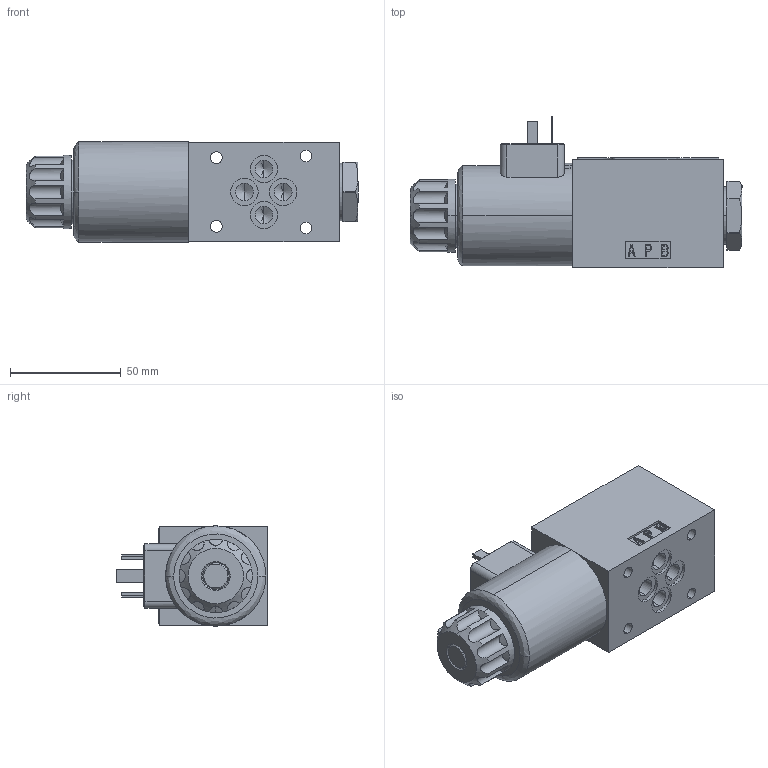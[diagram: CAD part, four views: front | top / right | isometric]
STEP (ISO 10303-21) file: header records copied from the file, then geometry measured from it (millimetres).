
FILE_DESCRIPTION (( 'STEP AP214' ), '1' );
FILE_NAME ('HD3-ES-MONO-A-10.STEP', '2015-02-09T11:00:15', ( '' ), ( '' ), 'SwSTEP 2.0', 'SolidWorks 2013', '' );
FILE_SCHEMA (( 'AUTOMOTIVE_DESIGN' ));
Length unit declared in the file: millimetre
Products named in the file (1): HD3-ES-MONO-A-10
Bounding box: 150 x 68.5 x 45.3 mm (x, y, z)
Volume: 254726.3 mm3; surface area: 35507.7 mm2
Topology: 7 solids, 7 shells, 391 faces, 1012 edges, 660 vertices
Faces by surface type: plane 230, cylinder 84, cone 39, bspline 38
Entity records: 18890 total; most frequent: CARTESIAN_POINT 5205, ORIENTED_EDGE 2004, DIRECTION 1761, EDGE_CURVE 1002, LINE 693, VECTOR 693, VERTEX_POINT 660, AXIS2_PLACEMENT_3D 534
